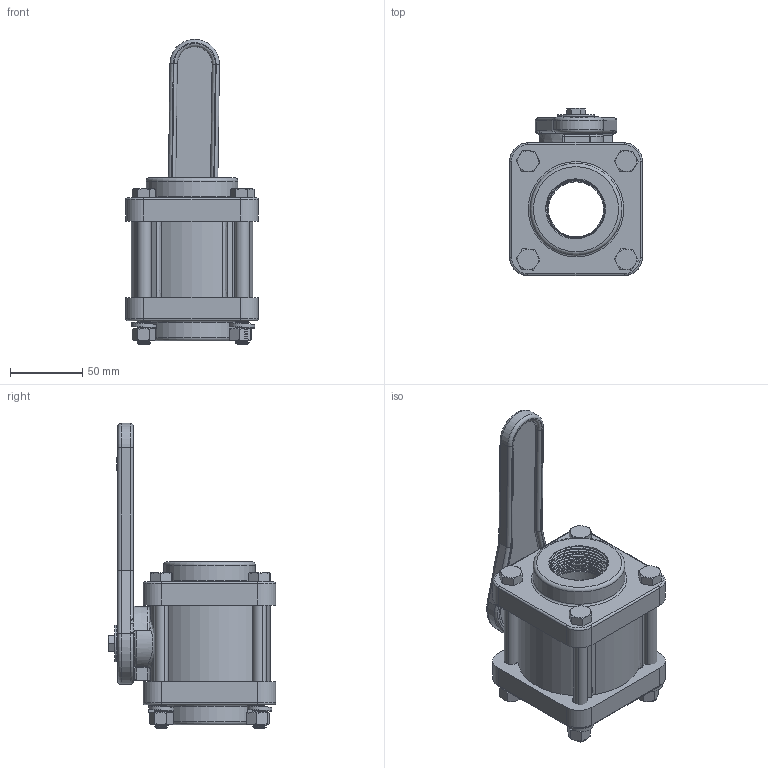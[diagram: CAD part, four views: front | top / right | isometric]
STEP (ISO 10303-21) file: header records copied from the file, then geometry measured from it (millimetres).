
FILE_DESCRIPTION(/* description */ ('Alibre Inc.'),/* implementation_level */ '2;1');
FILE_NAME(/* name */ 'export0',/* time_stamp */ '2017-05-04T12:14:04-04:00',/* author */ (''),/* organization */ (''),/* preprocessor_version */ 'ST-DEVELOPER v14',/* originating_system */ 'Alibre',/* authorisation */ '');
FILE_SCHEMA (('CONFIG_CONTROL_DESIGN'));
Length unit declared in the file: inch
Products named in the file (13): ID_1; ID_2; ID_3; ID_4; ID_5; ID_6; ID_7; ID_8; ID_9; ID_10; ID_11
Bounding box: 91.95 x 116 x 211.49 mm (x, y, z)
Volume: 535308.9 mm3; surface area: 157985.8 mm2
Topology: 24 solids, 24 shells, 994 faces, 2537 edges, 1618 vertices
Faces by surface type: cylinder 365, plane 259, cone 186, bspline 137, torus 43, sphere 4
Full cylindrical faces by diameter (mm): 4.826 x2, 4.978 x1, 7.112 x1, 9.652 x8, 19.05 x3, 21.59 x2, 22.352 x1, 24.892 x1, 25.4 x3, 31.496 x2, 32.258 x1, 38.1 x2, 39.624 x18, 63.5 x4, 65.278 x1, 71.12 x2, 71.628 x2
Entity records: 52111 total; most frequent: CARTESIAN_POINT 37923, ORIENTED_EDGE 2944, DIRECTION 1989, EDGE_CURVE 1472, VERTEX_POINT 961, AXIS2_PLACEMENT_3D 793, FACE_BOUND 679, EDGE_LOOP 678
